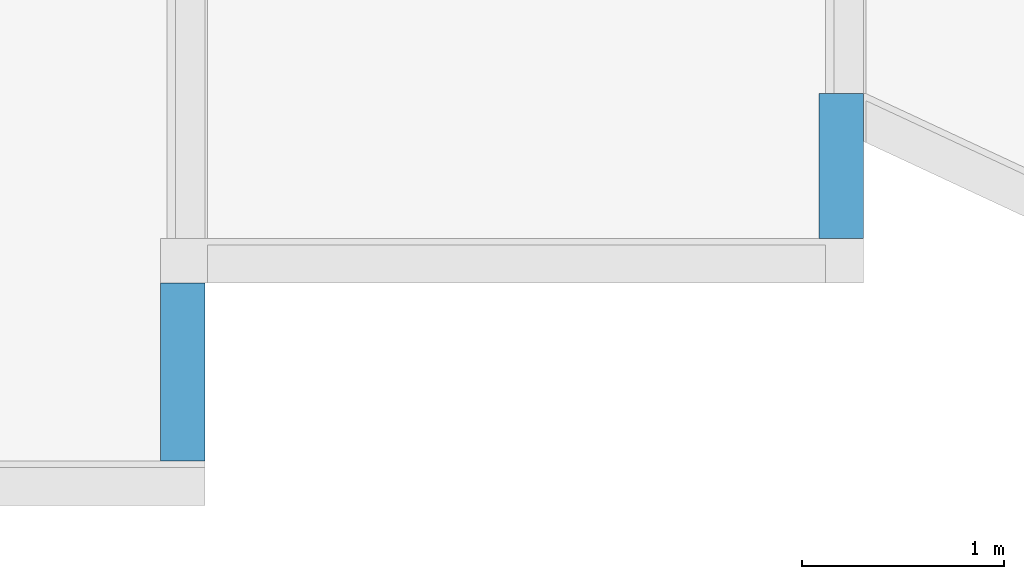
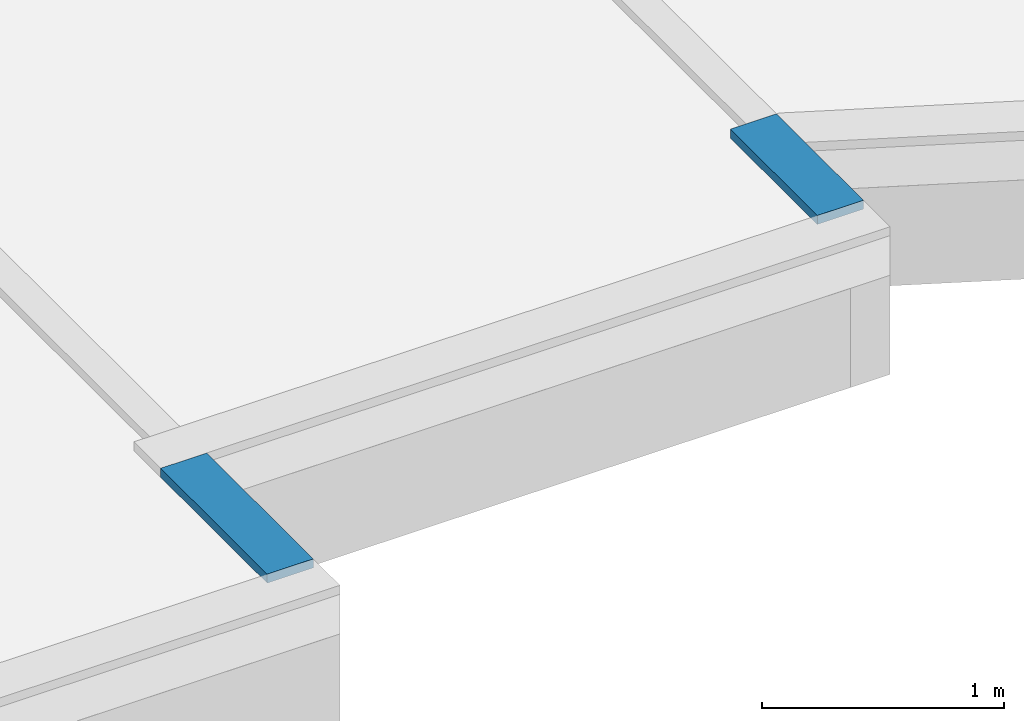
# One storey, part 2 of 2: 2 members.
"""IFC2X3 building model written with IfcOpenShell, lengths in metres."""

from ifc_helpers import new_model, si_unit, direction, frame, origin_with_axes, place, context, subcontext, project, spatial, faceted_brep, material, element, save


model = new_model("IFC2X3")

# Units and contexts
model_context = context("Model", 3, precision=1e-06, world=origin_with_axes(), true_north=direction((0.0, 1.0, 0.0)))
body_context = subcontext(model_context, "Body", "Model", "MODEL_VIEW")
ifc_project = project(units=[si_unit("LENGTHUNIT", "METRE"), si_unit("AREAUNIT", "SQUARE_METRE"), si_unit("VOLUMEUNIT", "CUBIC_METRE"), si_unit("PLANEANGLEUNIT", "RADIAN")], contexts=[model_context])

# Site, building, storey
site_placement = place(None, origin_with_axes())
site = spatial("IfcSite", under=ifc_project, at=site_placement, CompositionType="ELEMENT")
building_placement = place(site_placement, origin_with_axes())
building = spatial("IfcBuilding", under=site, at=building_placement, Name="Building 1", CompositionType="ELEMENT")
storey_placement = place(building_placement, origin_with_axes())
storey = spatial("IfcBuildingStorey", under=building, at=storey_placement, Name="Dalle", CompositionType="ELEMENT", Elevation=0.0)

# Members
ifc_material = material(Name="Epicéa C24 Traité")
member_1_placement = place(storey_placement, frame((3.326, 0.232, 0.0225), z_axis=(-1.0, 0.0, 0.0), x_axis=(0.0, 1.0, 0.0)))
element("IfcMember", 1, at=member_1_placement, inside=storey, material=ifc_material, Name="Lisse basse traitée", context=body_context, shape_type="Brep", body=[
    faceted_brep([(0.8808281, 0.0225, 0.11), (0.8808281, -0.0225, 0.11), (0.8808281, -0.0225, -0.11), (0.8808281, 0.0225, -0.11), (0.0, -0.0225, -0.11), (0.0, -0.0225, 0.11), (0.0, 0.0225, 0.11), (0.0, 0.0225, -0.11)], [[[0, 1, 2, 3]], [[4, 5, 6, 7]], [[5, 1, 0, 6]], [[6, 0, 3, 7]], [[2, 4, 7, 3]], [[4, 2, 1, 5]]]),
])
member_2_placement = place(storey_placement, frame((6.586, 1.3328281, 0.0225), z_axis=(-1.0, 0.0, 0.0), x_axis=(0.0, 1.0, 0.0)))
element("IfcMember", 2, at=member_2_placement, inside=storey, material=ifc_material, Name="Lisse basse traitée", context=body_context, shape_type="Brep", body=[
    faceted_brep([(0.0, 0.0225, -0.11), (0.7186462, 0.0225, -0.11), (0.7186462, -0.0225, -0.11), (0.0, -0.0225, -0.11), (0.7186462, 0.0225, 0.11), (0.7186462, -0.0225, 0.11), (0.0, -0.0225, 0.11), (0.0, 0.0225, 0.11)], [[[0, 1, 2, 3]], [[2, 1, 4, 5]], [[3, 6, 7, 0]], [[6, 5, 4, 7]], [[7, 4, 1, 0]], [[3, 2, 5, 6]]]),
])

save(model, "model.ifc")
